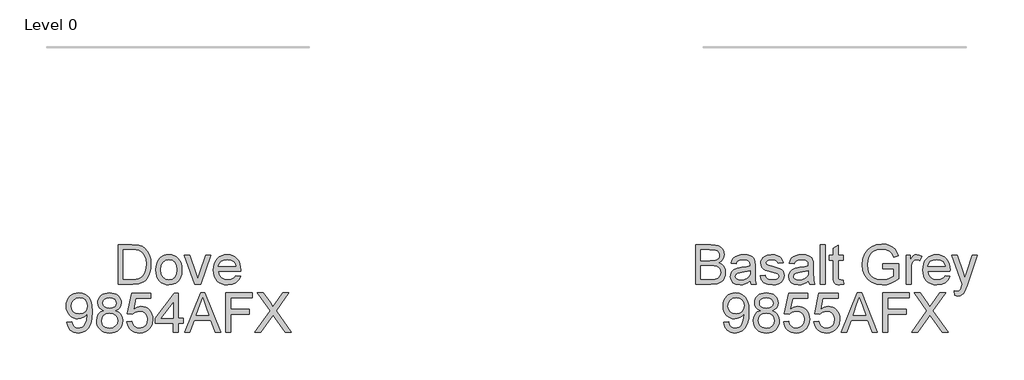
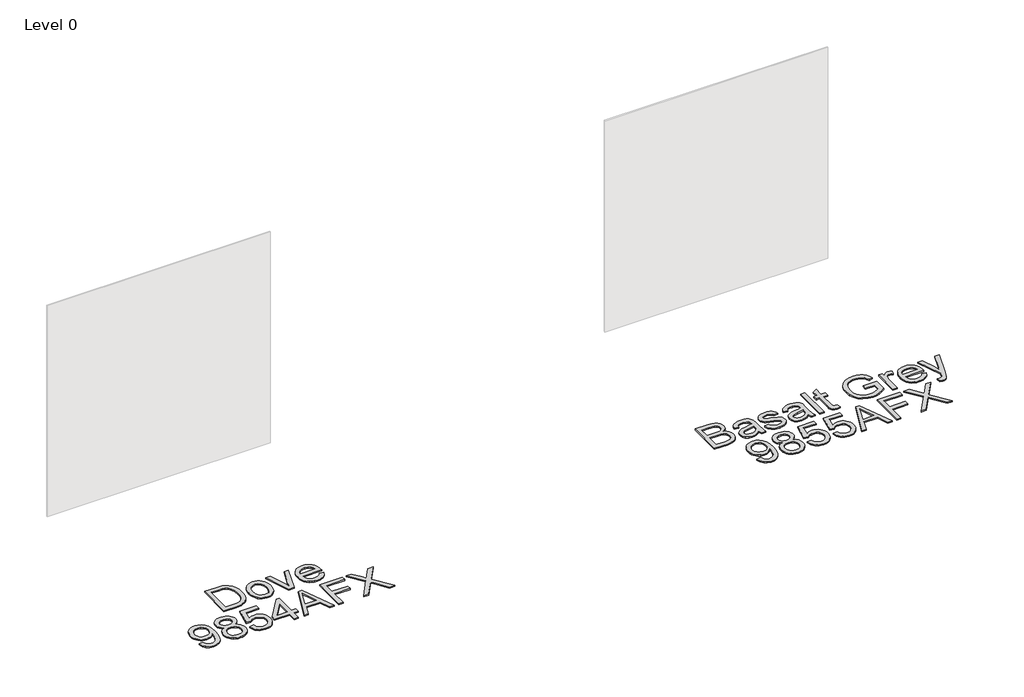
# One storey, part 8 of 10: 2 proxies.
"""IFC4 building model written with IfcOpenShell, lengths in millimetres."""

from ifc_helpers import new_model, si_unit, origin, origin_with_axes, place, context, project, spatial, polyline, outline, extrude, element, save

model = new_model("IFC4")

# Units and contexts
model_context = context("Model", 3, world=origin())
ifc_project = project(units=[si_unit("LENGTHUNIT", "METRE", prefix="MILLI")], contexts=[model_context])

# Site, building, storey
site = spatial("IfcSite", under=ifc_project)
building = spatial("IfcBuilding", under=site)
storey = spatial("IfcBuildingStorey", under=building, Name="Level 0", Elevation=0.0)

# Proxies
placement = place(None, origin())
element("IfcBuildingElementProxy", 1, Name="300mm Arial", ObjectType="300mm Arial", at=placement, inside=storey, context=model_context, shape_type="SweptSolid", body=[
    extrude(outline(polyline([(9492.1962424, -7002.860494), (9492.1962424, -6701.4915635), (9607.196154, -6701.4915635), (9638.8248086, -6703.7080526), (9663.5188875, -6710.3575196), (9682.4464162, -6721.6055116), (9696.7754199, -6737.6175755), (9705.7977258, -6756.4531336), (9708.8051611, -6776.1716086), (9706.2759724, -6794.317388), (9698.6884062, -6811.3779155), (9685.9872804, -6826.3047274), (9668.1174124, -6838.0493601), (9689.4637652, -6849.1961846), (9705.2367058, -6866.1555446), (9714.9763816, -6887.8054), (9718.2229402, -6913.0237108), (9716.0064512, -6934.0389697), (9709.3569841, -6953.5275184), (9699.4333673, -6970.1006023), (9687.394429, -6982.3694669), (9672.651558, -6991.253817), (9654.6161432, -6997.6733578), (9606.3132373, -7002.860494), (9492.1962424, -7002.860494)]), holes=[polyline([(9529.8673587, -6823.9226915), (9598.6612918, -6823.9226915), (9638.8340056, -6820.68533), (9652.8962949, -6815.1027207), (9663.0038527, -6806.7426024), (9669.1014968, -6795.7337336), (9671.1340448, -6782.2048733), (9669.2394525, -6769.071486), (9663.5556757, -6757.630356), (9654.3402317, -6748.7000206), (9641.850638, -6743.0990172), (9593.4373674, -6739.1626798), (9529.8673587, -6739.1626798), (9529.8673587, -6823.9226915)]), polyline([(9529.8673587, -6965.1893777), (9607.1225776, -6965.1893777), (9635.0816093, -6963.7178497), (9658.7364216, -6955.5140812), (9674.4081946, -6938.7754504), (9679.0159166, -6926.9480443), (9680.5518239, -6913.3915928), (9678.7492021, -6897.6462434), (9673.3413368, -6884.1081859), (9663.8959666, -6873.5223815), (9649.9808301, -6866.6337912), (9630.2715522, -6862.8538037), (9603.4437577, -6861.5938078), (9529.8673587, -6861.5938078), (9529.8673587, -6965.1893777)])]), origin_with_axes(), (0.0, 0.0, 1.0), 10.0),
    extrude(outline(polyline([(9906.5785217, -6974.6071568), (9888.5798951, -6990.0398064), (9870.0478396, -7000.1381672), (9850.5592909, -7005.7115794), (9829.6911847, -7007.5693835), (9798.209683, -7003.0996173), (9774.987132, -6989.6903186), (9760.6673254, -6969.3280501), (9755.8940565, -6943.9993748), (9757.6966783, -6928.3827841), (9763.1045436, -6914.2009331), (9771.4462678, -6902.0608273), (9782.0504664, -6892.5694718), (9808.4276054, -6880.2086368), (9841.0219502, -6874.5432541), (9879.5391951, -6868.5835657), (9906.3577925, -6861.5938078), (9906.5785217, -6853.2060983), (9903.9849537, -6836.3938912), (9896.2042495, -6825.3942195), (9878.8034311, -6817.2272392), (9854.5600076, -6814.5049125), (9832.1192059, -6816.3167313), (9816.4474329, -6821.7521878), (9805.7604609, -6831.8045633), (9798.2740623, -6847.4671392), (9760.602946, -6842.7582497), (9767.1420485, -6822.156858), (9776.9001184, -6805.9700502), (9790.7876637, -6793.590821), (9809.7151924, -6784.4121652), (9832.8641669, -6778.7283884), (9859.4160499, -6776.8337961), (9884.8826811, -6778.5076592), (9905.0702055, -6783.5292485), (9920.2913231, -6791.0800264), (9930.8587334, -6800.3414556), (9937.8668854, -6811.7917827), (9942.410228, -6825.9092543), (9944.249638, -6858.8714811), (9944.249638, -6905.7396473), (9946.1626244, -6971.1858542), (9953.6674171, -7002.860494), (9915.9963008, -7002.860494), (9906.5785217, -6974.6071568)]), holes=[polyline([(9906.5785217, -6899.2649241), (9845.8044161, -6910.8164188), (9813.3940123, -6916.9232599), (9798.7155207, -6926.8560738), (9793.5651728, -6941.3506244), (9796.370273, -6952.5526311), (9804.7855737, -6961.7312869), (9818.6271337, -6967.8565221), (9837.7110122, -6969.8982672), (9857.944522, -6967.64499), (9875.8235869, -6960.8851583), (9890.3181375, -6950.9247533), (9900.3981042, -6939.069756), (9904.8678704, -6926.8560738), (9906.3577925, -6909.933502), (9906.5785217, -6899.2649241)])]), origin_with_axes(), (0.0, 0.0, 1.0), 10.0),
    extrude(outline(polyline([(9981.9207543, -6936.9360404), (10019.5918706, -6932.2271509), (10025.5331649, -6948.3403823), (10037.0294772, -6960.1861825), (10054.1543841, -6967.470246), (10076.9814619, -6969.8982672), (10099.5326282, -6967.6725811), (10115.3883422, -6960.9955229), (10124.7693331, -6951.3202265), (10127.89633, -6940.0998256), (10124.750939, -6930.4981055), (10115.3147658, -6923.1772538), (10076.5400035, -6912.4350996), (10019.8125998, -6894.0042116), (10005.456005, -6884.7427824), (9995.0541416, -6872.4831149), (9988.7357683, -6858.0069584), (9986.6296439, -6842.0960621), (9988.321901, -6827.5003439), (9993.3986726, -6814.0266659), (10001.400106, -6802.2084568), (10011.8663487, -6792.5791455), (10035.8154666, -6781.4323211), (10068.2258704, -6776.8337961), (10092.7452054, -6778.6824032), (10114.063967, -6784.2282242), (10131.207268, -6792.9286334), (10143.200221, -6804.2410048), (10151.1464721, -6819.0022698), (10156.1496672, -6838.0493601), (10118.4785509, -6842.7582497), (10113.7236762, -6830.9032524), (10104.3150941, -6821.972917), (10090.1608344, -6816.3719136), (10071.1689264, -6814.5049125), (10049.537465, -6816.2891401), (10035.1164908, -6821.6418232), (10027.0046928, -6829.3673451), (10024.3007602, -6838.2700893), (10028.7889205, -6849.2329728), (10042.8420127, -6857.5471059), (10075.2892047, -6865.5669334), (10130.5818686, -6883.2988455), (10145.1867838, -6891.7785255), (10156.2600318, -6903.3852025), (10163.2405927, -6918.1556646), (10165.5674463, -6936.1267001), (10162.8359225, -6954.7047408), (10154.6413511, -6972.1791356), (10141.2964317, -6987.1795239), (10123.1138641, -6998.3355454), (10101.151309, -7005.260924), (10076.4664271, -7007.5693835), (10038.4826111, -7003.1180114), (10010.7627028, -6989.763895), (9992.2582384, -6967.654187), (9981.9207543, -6936.9360404)])), origin_with_axes(), (0.0, 0.0, 1.0), 10.0),
    extrude(outline(polyline([(10349.2141383, -6974.6071568), (10331.2155117, -6990.0398064), (10312.6834562, -7000.1381672), (10293.1949075, -7005.7115794), (10272.3268013, -7007.5693835), (10240.8452996, -7003.0996173), (10217.6227486, -6989.6903186), (10203.302942, -6969.3280501), (10198.5296731, -6943.9993748), (10200.3322949, -6928.3827841), (10205.7401602, -6914.2009331), (10214.0818844, -6902.0608273), (10224.6860829, -6892.5694718), (10251.063222, -6880.2086368), (10283.6575668, -6874.5432541), (10322.1748117, -6868.5835657), (10348.9934091, -6861.5938078), (10349.2141383, -6853.2060983), (10346.6205703, -6836.3938912), (10338.8398661, -6825.3942195), (10321.4390477, -6817.2272392), (10297.1956242, -6814.5049125), (10274.7548225, -6816.3167313), (10259.0830495, -6821.7521878), (10248.3960775, -6831.8045633), (10240.9096789, -6847.4671392), (10203.2385626, -6842.7582497), (10209.7776651, -6822.156858), (10219.535735, -6805.9700502), (10233.4232803, -6793.590821), (10252.350809, -6784.4121652), (10275.4997835, -6778.7283884), (10302.0516665, -6776.8337961), (10327.5182977, -6778.5076592), (10347.7058221, -6783.5292485), (10362.9269397, -6791.0800264), (10373.49435, -6800.3414556), (10380.502502, -6811.7917827), (10385.0458446, -6825.9092543), (10386.8852546, -6858.8714811), (10386.8852546, -6905.7396473), (10388.798241, -6971.1858542), (10396.3030337, -7002.860494), (10358.6319174, -7002.860494), (10349.2141383, -6974.6071568)]), holes=[polyline([(10349.2141383, -6899.2649241), (10288.4400327, -6910.8164188), (10256.0296289, -6916.9232599), (10241.3511373, -6926.8560738), (10236.2007894, -6941.3506244), (10239.0058896, -6952.5526311), (10247.4211903, -6961.7312869), (10261.2627503, -6967.8565221), (10280.3466288, -6969.8982672), (10300.5801386, -6967.64499), (10318.4592035, -6960.8851583), (10332.9537541, -6950.9247533), (10343.0337208, -6939.069756), (10347.503487, -6926.8560738), (10348.9934091, -6909.933502), (10349.2141383, -6899.2649241)])]), origin_with_axes(), (0.0, 0.0, 1.0), 10.0),
    extrude(outline(polyline([(10438.6830395, -7002.860494), (10438.6830395, -6701.4915635), (10476.3541558, -6701.4915635), (10476.3541558, -7002.860494), (10438.6830395, -7002.860494)])), origin_with_axes(), (0.0, 0.0, 1.0), 10.0),
    extrude(outline(polyline([(10612.9119525, -6971.4433716), (10617.620842, -7003.96414), (10589.4410812, -7007.5693835), (10571.3596811, -7006.005885), (10557.876806, -7001.3153896), (10548.3486623, -6994.0865084), (10542.1314566, -6984.9078526), (10538.710154, -6969.1441091), (10537.5697198, -6942.1599648), (10537.5697198, -6819.213802), (10509.3163826, -6819.213802), (10509.3163826, -6781.5426857), (10537.5697198, -6781.5426857), (10537.5697198, -6727.758338), (10575.2408362, -6705.6118419), (10575.2408362, -6781.5426857), (10612.9119525, -6781.5426857), (10612.9119525, -6819.213802), (10575.2408362, -6819.213802), (10575.2408362, -6941.0563188), (10577.2273989, -6960.4804881), (10583.6653338, -6967.3598814), (10596.5044155, -6969.8982672), (10612.9119525, -6971.4433716)])), origin_with_axes(), (0.0, 0.0, 1.0), 10.0),
    extrude(outline(polyline([(10914.2808829, -6885.1382555), (10914.2808829, -6847.4671392), (11036.7120109, -6847.4671392), (11036.7120109, -6960.1126061), (11006.9595545, -6980.8059684), (10976.2689991, -6995.6500069), (10944.713921, -7004.5895394), (10912.3678965, -7007.5693835), (10870.1074523, -7002.8329028), (10831.9121042, -6988.6234608), (10800.1822821, -6965.437698), (10777.3184161, -6933.7722553), (10763.4952501, -6895.7884393), (10758.8875281, -6853.6475567), (10763.476856, -6811.2031715), (10777.2448397, -6771.7202364), (10799.6212621, -6738.6016598), (10830.035906, -6715.2503502), (10867.0816229, -6701.399593), (10909.3512642, -6696.782674), (10940.3821105, -6699.4590155), (10968.2859598, -6707.4880401), (10991.7844222, -6720.2903335), (11009.5991079, -6737.2864817), (11022.7784803, -6759.295022), (11032.3710034, -6787.134492), (10997.642943, -6796.9201531), (10989.88983, -6777.0637224), (10980.4628538, -6762.0817281), (10967.9916542, -6750.7877509), (10951.1058706, -6741.9953712), (10930.9735284, -6736.3391855), (10908.762653, -6734.4537903), (10882.762593, -6736.4863383), (10860.5333234, -6742.5839824), (10842.1576178, -6751.9833674), (10827.7182494, -6763.9211381), (10808.3308683, -6792.9470275), (10799.5017004, -6821.3843058), (10796.5586445, -6852.1024524), (10800.0995087, -6888.1272967), (10810.7221013, -6917.7693885), (10828.1045255, -6940.8171955), (10851.9248847, -6957.0591856), (10879.8011429, -6966.6884968), (10909.3512642, -6969.8982672), (10935.4432947, -6967.4794431), (10960.8915317, -6960.2229707), (10982.9920426, -6950.2257775), (10999.0408946, -6939.5847908), (10999.0408946, -6885.1382555), (10914.2808829, -6885.1382555)])), origin_with_axes(), (0.0, 0.0, 1.0), 10.0),
    extrude(outline(polyline([(11093.2186854, -7002.860494), (11093.2186854, -6781.5426857), (11126.1809121, -6781.5426857), (11126.1809121, -6814.2841833), (11138.3578062, -6795.3014723), (11149.578207, -6784.1178596), (11160.8353961, -6778.654812), (11173.1226547, -6776.8337961), (11191.8846365, -6779.7400639), (11210.9409238, -6788.4588672), (11198.3593596, -6822.2304343), (11185.1156078, -6816.4362929), (11171.8718559, -6814.5049125), (11160.6238639, -6816.3627165), (11150.5714884, -6821.9361288), (11142.4504934, -6830.8020848), (11136.9966428, -6842.5375205), (11132.4165119, -6863.5803706), (11130.8898017, -6886.5362071), (11130.8898017, -7002.860494), (11093.2186854, -7002.860494)])), origin_with_axes(), (0.0, 0.0, 1.0), 10.0),
    extrude(outline(polyline([(11389.4372679, -6936.9360404), (11426.3726202, -6941.64493), (11413.064489, -6969.4752029), (11391.8285008, -6990.2789297), (11363.1429023, -7003.2467701), (11327.4859399, -7007.5693835), (11304.1116376, -7005.7046817), (11283.2849182, -7000.1105761), (11265.0057815, -6990.7870668), (11249.2742277, -6977.7341537), (11236.6236856, -6961.3151204), (11227.5875841, -6941.8932503), (11222.1659232, -6919.4685435), (11220.3587029, -6894.0409998), (11222.1843173, -6867.7512327), (11227.6611605, -6844.5792656), (11236.7892325, -6824.5250983), (11249.5685333, -6807.5887309), (11265.2587004, -6794.133447), (11283.1193713, -6784.5225298), (11303.1505459, -6778.7559796), (11325.3522243, -6776.8337961), (11346.8388321, -6778.751381), (11366.2698992, -6784.5041357), (11383.6454257, -6794.0920602), (11398.9654116, -6807.5151545), (11411.4711001, -6824.4147337), (11420.4037348, -6844.4321128), (11425.7633156, -6867.5672917), (11427.5498426, -6893.8202706), (11427.3291134, -6903.9738137), (11258.0298192, -6903.9738137), (11264.5505276, -6932.1719686), (11279.6980687, -6952.902119), (11301.5594563, -6965.6492302), (11328.2217039, -6969.8982672), (11348.2712726, -6967.9300985), (11365.1570562, -6962.0255925), (11378.8790546, -6951.8168672), (11389.4372679, -6936.9360404)]), holes=[polyline([(11258.0298192, -6866.3026974), (11389.8787263, -6866.3026974), (11384.7835606, -6846.4002814), (11374.7955645, -6832.1632482), (11352.8330094, -6818.9194964), (11325.2050715, -6814.5049125), (11299.8120168, -6818.0273826), (11278.8151519, -6828.5947929), (11264.2194338, -6845.0667092), (11258.0298192, -6866.3026974)])]), origin_with_axes(), (0.0, 0.0, 1.0), 10.0),
    extrude(outline(polyline([(11465.2209589, -7087.6205057), (11460.5120693, -7051.3473409), (11479.6419331, -7054.6582789), (11497.5209981, -7050.5012124), (11508.4838815, -7038.9129295), (11518.7845774, -7011.1746271), (11521.7276333, -7002.0511536), (11441.6765112, -6781.5426857), (11481.4077667, -6781.5426857), (11523.8613489, -6904.4152721), (11538.6502051, -6953.5643066), (11553.4390613, -6910.1542312), (11597.069866, -6781.5426857), (11636.5068158, -6781.5426857), (11559.472326, -7008.1579947), (11539.4595455, -7057.3070293), (11529.2140319, -7072.9971964), (11517.607355, -7083.8681093), (11504.1244799, -7090.2140737), (11488.2503718, -7092.3293952), (11465.2209589, -7087.6205057)])), origin_with_axes(), (0.0, 0.0, 1.0), 10.0),
    extrude(outline(polyline([(9704.0962716, -7293.4427149), (9741.7673879, -7288.7338254), (9748.2053228, -7310.1169663), (9758.6899597, -7324.6758963), (9772.9637811, -7333.0360146), (9790.7692696, -7335.8227207), (9806.7445453, -7334.029296), (9821.266687, -7328.6490218), (9833.3332165, -7320.2705094), (9841.9416552, -7309.4823699), (9854.265702, -7276.7408723), (9859.7103555, -7233.0364913), (9859.4896263, -7225.6788514), (9846.4390126, -7241.6081418), (9829.3600909, -7254.2264942), (9809.4852661, -7262.4486568), (9788.0469429, -7265.1893777), (9770.1517831, -7263.5155146), (9753.6959616, -7258.4939254), (9738.6794784, -7250.12461), (9725.1023335, -7238.4075684), (9713.8520422, -7223.9544045), (9705.8161199, -7207.3767221), (9700.9945665, -7188.6745212), (9699.387382, -7167.8478018), (9701.0727414, -7146.326705), (9706.1288196, -7127.0129003), (9714.5556165, -7109.9063875), (9726.3531323, -7095.0071667), (9740.6890338, -7082.9360387), (9756.730988, -7074.3138045), (9774.478995, -7069.1404639), (9793.9330548, -7067.4160171), (9822.0300422, -7071.3523544), (9847.6070379, -7083.1613665), (9868.9993759, -7102.254442), (9884.5423902, -7128.0429699), (9894.0061545, -7163.6907352), (9897.1607426, -7212.3615232), (9894.0153516, -7263.96617), (9884.5791784, -7303.8537754), (9868.9349966, -7333.8269609), (9847.1655795, -7355.6883485), (9820.2090263, -7369.0424649), (9789.0034361, -7373.4938371), (9756.7953674, -7368.2423216), (9731.09881, -7352.4877751), (9713.1277746, -7327.2234791), (9704.0962716, -7293.4427149)]), holes=[polyline([(9859.4896263, -7166.964885), (9855.4245303, -7141.4338745), (9843.2292422, -7121.788976), (9824.3017135, -7109.262594), (9800.0398959, -7105.0871334), (9774.8767674, -7109.5844908), (9754.7168341, -7123.0765629), (9741.4730823, -7143.7239399), (9737.0584983, -7169.6872117), (9741.233959, -7192.964945), (9753.7603409, -7211.4418182), (9773.4236336, -7223.4991506), (9799.0098263, -7227.5182614), (9823.0785059, -7223.4991506), (9842.45669, -7211.4418182), (9855.2313922, -7192.2843633), (9859.4896263, -7166.964885)])]), origin_with_axes(), (0.0, 0.0, 1.0), 10.0),
    extrude(outline(polyline([(9985.0109631, -7202.7965913), (9964.8418327, -7192.8637774), (9950.6875729, -7179.3992964), (9942.3274546, -7162.6790597), (9939.5407485, -7142.9789789), (9941.0582617, -7127.6153071), (9945.6108014, -7113.5300252), (9953.1983676, -7100.7231332), (9963.8209602, -7089.1946312), (9976.968143, -7079.6664875), (9992.1294797, -7072.8606706), (10028.4946149, -7067.4160171), (10065.0804793, -7072.9894293), (10080.407363, -7079.9561946), (10093.7568809, -7089.709666), (10104.5726115, -7101.4634957), (10112.2981334, -7114.4313361), (10116.9334466, -7128.613187), (10118.4785509, -7144.0090485), (10115.728633, -7163.0745329), (10107.4788793, -7179.509661), (10093.6373192, -7192.8913686), (10074.1119823, -7202.7965913), (10097.2977451, -7214.7435591), (10114.1743316, -7232.3375155), (10124.4658304, -7254.732332), (10127.89633, -7281.0818799), (10126.1948758, -7299.8714528), (10121.0905131, -7317.0975272), (10112.583242, -7332.7601031), (10100.6730624, -7346.8591806), (10085.9853737, -7358.5118428), (10069.1455754, -7366.8351729), (10050.1536674, -7371.829171), (10029.0096497, -7373.4938371), (10007.865632, -7371.8222732), (9988.873724, -7366.8075818), (9972.0339257, -7358.4497627), (9957.3462371, -7346.748816), (9945.4360575, -7332.5508703), (9936.9287863, -7316.7020541), (9931.8244236, -7299.2023674), (9930.1229694, -7280.0518103), (9933.6914248, -7252.6813898), (9944.3967908, -7230.1670117), (9961.6872446, -7213.2812282), (9985.0109631, -7202.7965913)]), holes=[polyline([(9977.2118648, -7144.0826249), (9980.5503939, -7160.52695), (9990.5659812, -7173.6603373), (10006.9643212, -7182.268776), (10029.4511081, -7185.1382555), (10051.4136632, -7182.2871701), (10067.5636828, -7173.7339137), (10077.4964967, -7161.0419848), (10080.8074346, -7145.774882), (10077.3861321, -7129.9283651), (10067.1222244, -7116.822569), (10050.7514756, -7108.0209923), (10029.0096497, -7105.0871334), (10007.1298681, -7107.9566129), (9990.7867104, -7116.5650516), (9980.6055762, -7129.1834041), (9977.2118648, -7144.0826249)]), polyline([(9967.7940857, -7278.7274351), (9974.0848678, -7307.0911369), (9982.7944741, -7319.2588339), (9996.3417285, -7328.317928), (10012.5653245, -7333.9465226), (10029.3039553, -7335.8227207), (10054.9453304, -7331.8771864), (10074.1855587, -7320.0405832), (10086.2153, -7302.1155329), (10090.2252137, -7279.9046575), (10086.0865413, -7257.316703), (10073.6705239, -7238.9961796), (10053.9888372, -7226.8560738), (10028.0531565, -7222.8093718), (10002.7704664, -7226.8008915), (9983.7233761, -7238.7754504), (9971.7764083, -7256.7464859), (9967.7940857, -7278.7274351)])]), origin_with_axes(), (0.0, 0.0, 1.0), 10.0),
    extrude(outline(polyline([(10160.8585568, -7288.7338254), (10198.5296731, -7284.0249358), (10205.4458546, -7306.6404815), (10217.512384, -7322.8364863), (10234.6740791, -7332.5761621), (10256.8757575, -7335.8227207), (10283.878296, -7331.3069693), (10304.1118057, -7317.7597148), (10316.7485522, -7296.7444558), (10320.9608011, -7269.8246908), (10317.0152667, -7244.4776213), (10305.1786635, -7225.0902402), (10285.359021, -7212.7845875), (10257.4643687, -7208.6827032), (10239.1898306, -7210.3197781), (10224.3917774, -7215.2310027), (10203.2385626, -7232.2271509), (10165.5674463, -7227.5182614), (10198.5296731, -7072.1249066), (10344.5052488, -7072.1249066), (10344.5052488, -7109.7960229), (10228.9903023, -7109.7960229), (10212.8770709, -7192.790201), (10239.7876389, -7176.4562404), (10267.9857938, -7171.0115869), (10286.331609, -7172.6992456), (10303.1829037, -7177.7622215), (10318.5396777, -7186.2005148), (10332.4019311, -7198.0141254), (10343.8775501, -7212.4810848), (10352.0744208, -7228.8794248), (10356.9925433, -7247.2091452), (10358.6319174, -7267.470246), (10352.7274114, -7305.1413624), (10345.3467788, -7321.9351754), (10335.0138933, -7337.3678251), (10319.3605144, -7353.1729553), (10301.0951733, -7364.4623341), (10280.2178701, -7371.2359613), (10256.7286047, -7373.4938371), (10219.7288731, -7367.6904986), (10204.0502023, -7360.4363255), (10190.2523282, -7350.2804832), (10178.7721107, -7337.7288093), (10170.0464096, -7323.2871418), (10160.8585568, -7288.7338254)])), origin_with_axes(), (0.0, 0.0, 1.0), 10.0),
    extrude(outline(polyline([(10391.5941442, -7288.7338254), (10429.2652605, -7284.0249358), (10436.181442, -7306.6404815), (10448.2479714, -7322.8364863), (10465.4096665, -7332.5761621), (10487.6113449, -7335.8227207), (10514.6138833, -7331.3069693), (10534.8473931, -7317.7597148), (10547.4841396, -7296.7444558), (10551.6963885, -7269.8246908), (10547.7508541, -7244.4776213), (10535.9142509, -7225.0902402), (10516.0946084, -7212.7845875), (10488.1999561, -7208.6827032), (10469.925418, -7210.3197781), (10455.1273647, -7215.2310027), (10433.97415, -7232.2271509), (10396.3030337, -7227.5182614), (10429.2652605, -7072.1249066), (10575.2408362, -7072.1249066), (10575.2408362, -7109.7960229), (10459.7258897, -7109.7960229), (10443.6126583, -7192.790201), (10470.5232262, -7176.4562404), (10498.7213812, -7171.0115869), (10517.0671964, -7172.6992456), (10533.918491, -7177.7622215), (10549.2752651, -7186.2005148), (10563.1375185, -7198.0141254), (10574.6131375, -7212.4810848), (10582.8100082, -7228.8794248), (10587.7281306, -7247.2091452), (10589.3675048, -7267.470246), (10583.4629987, -7305.1413624), (10576.0823662, -7321.9351754), (10565.7494807, -7337.3678251), (10550.0961018, -7353.1729553), (10531.8307607, -7364.4623341), (10510.9534575, -7371.2359613), (10487.4641921, -7373.4938371), (10450.4644604, -7367.6904986), (10434.7857897, -7360.4363255), (10420.9879156, -7350.2804832), (10409.5076981, -7337.7288093), (10400.781997, -7323.2871418), (10391.5941442, -7288.7338254)])), origin_with_axes(), (0.0, 0.0, 1.0), 10.0),
    extrude(outline(polyline([(10601.3604578, -7368.7849475), (10721.6578702, -7067.4160171), (10753.7371802, -7067.4160171), (10874.0345926, -7368.7849475), (10834.2297608, -7368.7849475), (10799.7224296, -7274.6071568), (10675.5990444, -7274.6071568), (10641.1652897, -7368.7849475), (10601.3604578, -7368.7849475)]), holes=[polyline([(10689.4314075, -7236.9360404), (10785.963643, -7236.9360404), (10758.8139517, -7162.8446066), (10737.6975252, -7105.0871334), (10718.9355435, -7156.3698835), (10689.4314075, -7236.9360404)])]), origin_with_axes(), (0.0, 0.0, 1.0), 10.0),
    extrude(outline(polyline([(10914.2808829, -7368.7849475), (10914.2808829, -7067.4160171), (11116.7631331, -7067.4160171), (11116.7631331, -7105.0871334), (10951.9519992, -7105.0871334), (10951.9519992, -7194.5560346), (11093.2186854, -7194.5560346), (11093.2186854, -7232.2271509), (10951.9519992, -7232.2271509), (10951.9519992, -7368.7849475), (10914.2808829, -7368.7849475)])), origin_with_axes(), (0.0, 0.0, 1.0), 10.0),
    extrude(outline(polyline([(11135.5986912, -7368.7849475), (11251.7758253, -7204.5624249), (11154.4342494, -7067.4160171), (11199.6101584, -7067.4160171), (11254.4245756, -7144.5976597), (11272.8922518, -7174.6904069), (11294.5237131, -7144.0826249), (11348.7495192, -7067.4160171), (11394.5876158, -7067.4160171), (11297.2460399, -7205.0038833), (11413.423174, -7368.7849475), (11368.247265, -7368.7849475), (11290.8448932, -7259.5975713), (11274.7316618, -7236.9360404), (11256.9997496, -7261.8048633), (11181.4367878, -7368.7849475), (11135.5986912, -7368.7849475)])), origin_with_axes(), (0.0, 0.0, 1.0), 10.0),
])
element("IfcBuildingElementProxy", 2, Name="300mm Arial", ObjectType="300mm Arial", at=placement, inside=storey, context=model_context, shape_type="SweptSolid", body=[
    extrude(outline(polyline([(5094.9341033, -7002.860494), (5094.9341033, -6701.4915635), (5198.8975551, -6701.4915635), (5252.6819028, -6705.8325711), (5276.7045971, -6714.2018865), (5296.974895, -6727.390456), (5317.81541, -6750.3462925), (5332.6594485, -6778.8939353), (5341.5437987, -6812.4815615), (5344.5052488, -6850.557348), (5342.5002919, -6882.9033724), (5336.4854213, -6911.3682418), (5327.3251596, -6935.6024682), (5315.8840296, -6955.2565638), (5302.7138541, -6970.771987), (5288.3664563, -6982.590196), (5271.89454, -6991.3549846), (5252.350809, -6997.710146), (5203.9007502, -7002.860494), (5094.9341033, -7002.860494)]), holes=[polyline([(5132.6052196, -6965.1893777), (5199.2654371, -6965.1893777), (5226.8381926, -6963.8282143), (5247.752284, -6959.7447241), (5263.5344216, -6953.1780305), (5275.7113157, -6944.3672567), (5288.7987177, -6928.0608873), (5298.630364, -6906.9536578), (5304.7831903, -6880.9535978), (5306.8341325, -6849.9687368), (5302.8150217, -6808.9131061), (5290.7576893, -6778.5996297), (5272.9430037, -6757.7775088), (5251.6518332, -6745.1959446), (5229.9835837, -6740.670996), (5198.2353675, -6739.1626798), (5132.6052196, -6739.1626798), (5132.6052196, -6965.1893777)])]), origin_with_axes(), (0.0, 0.0, 1.0), 10.0),
    extrude(outline(polyline([(5382.1763651, -6892.2015898), (5384.2135116, -6863.5389839), (5390.3249513, -6838.8403064), (5400.510684, -6818.1055575), (5414.7707099, -6801.334737), (5429.1273047, -6790.6155754), (5444.9738217, -6782.9590314), (5462.3102607, -6778.3651049), (5481.1366218, -6776.8337961), (5501.9196553, -6778.698498), (5520.7115274, -6784.2926036), (5537.5122383, -6793.6161129), (5552.3217879, -6806.669026), (5564.4090107, -6823.0098843), (5573.0427412, -6842.1972296), (5578.2229796, -6864.2310619), (5579.9497257, -6889.1113811), (5576.8963051, -6927.1687735), (5567.7360435, -6956.1394806), (5552.7356551, -6977.8353213), (5532.1618545, -6994.0681143), (5507.725293, -7004.1940662), (5481.1366218, -7007.5693835), (5460.0500857, -7005.7115794), (5441.0834696, -7000.1381672), (5424.2367734, -6990.8491468), (5409.5099973, -6977.8445183), (5397.5515332, -6961.3450108), (5389.0097731, -6941.5713536), (5383.8847171, -6918.5235466), (5382.1763651, -6892.2015898)]), holes=[polyline([(5419.8474814, -6892.1280134), (5424.206883, -6926.2214773), (5437.285088, -6950.5108861), (5456.9667747, -6965.0514219), (5481.1366218, -6969.8982672), (5505.1961043, -6965.0238308), (5524.8410028, -6950.4005215), (5537.9192077, -6925.789216), (5542.2786094, -6890.950791), (5537.8916166, -6857.8506085), (5524.7306382, -6833.8922936), (5505.0581485, -6819.3517577), (5481.1366218, -6814.5049125), (5456.9667747, -6819.3333636), (5437.285088, -6833.8187172), (5424.206883, -6858.0529436), (5419.8474814, -6892.1280134)])]), origin_with_axes(), (0.0, 0.0, 1.0), 10.0),
    extrude(outline(polyline([(5676.629114, -7002.860494), (5598.7852838, -6781.5426857), (5638.6636921, -6781.5426857), (5685.8261639, -6914.1273567), (5700.0264089, -6958.7146546), (5713.9323483, -6916.6289543), (5761.3891257, -6781.5426857), (5801.267534, -6781.5426857), (5724.380197, -7002.860494), (5676.629114, -7002.860494)])), origin_with_axes(), (0.0, 0.0, 1.0), 10.0),
    extrude(outline(polyline([(5989.1816571, -6936.9360404), (6026.1170094, -6941.64493), (6012.8088783, -6969.4752029), (5991.5728901, -6990.2789297), (5962.8872915, -7003.2467701), (5927.2303291, -7007.5693835), (5903.8560269, -7005.7046817), (5883.0293074, -7000.1105761), (5864.7501708, -6990.7870668), (5849.018617, -6977.7341537), (5836.3680749, -6961.3151204), (5827.3319733, -6941.8932503), (5821.9103124, -6919.4685435), (5820.1030921, -6894.0409998), (5821.9287065, -6867.7512327), (5827.4055497, -6844.5792656), (5836.5336218, -6824.5250983), (5849.3129226, -6807.5887309), (5865.0030897, -6794.133447), (5882.8637605, -6784.5225298), (5902.8949352, -6778.7559796), (5925.0966136, -6776.8337961), (5946.5832213, -6778.751381), (5966.0142885, -6784.5041357), (5983.389815, -6794.0920602), (5998.7098008, -6807.5151545), (6011.2154894, -6824.4147337), (6020.1481241, -6844.4321128), (6025.5077049, -6867.5672917), (6027.2942318, -6893.8202706), (6027.0735026, -6903.9738137), (5857.7742084, -6903.9738137), (5864.2949168, -6932.1719686), (5879.442458, -6952.902119), (5901.3038455, -6965.6492302), (5927.9660931, -6969.8982672), (5948.0156619, -6967.9300985), (5964.9014454, -6962.0255925), (5978.6234439, -6951.8168672), (5989.1816571, -6936.9360404)]), holes=[polyline([(5857.7742084, -6866.3026974), (5989.6231155, -6866.3026974), (5984.5279499, -6846.4002814), (5974.5399537, -6832.1632482), (5952.5773986, -6818.9194964), (5924.9494608, -6814.5049125), (5899.5564061, -6818.0273826), (5878.5595412, -6828.5947929), (5863.963823, -6845.0667092), (5857.7742084, -6866.3026974)])]), origin_with_axes(), (0.0, 0.0, 1.0), 10.0),
    extrude(outline(polyline([(4704.0962716, -7293.4427149), (4741.7673879, -7288.7338254), (4748.2053228, -7310.1169663), (4758.6899597, -7324.6758963), (4772.9637811, -7333.0360146), (4790.7692696, -7335.8227207), (4806.7445453, -7334.029296), (4821.266687, -7328.6490218), (4833.3332165, -7320.2705094), (4841.9416552, -7309.4823699), (4854.265702, -7276.7408723), (4859.7103555, -7233.0364913), (4859.4896263, -7225.6788514), (4846.4390126, -7241.6081418), (4829.3600909, -7254.2264942), (4809.4852661, -7262.4486568), (4788.0469429, -7265.1893777), (4770.1517831, -7263.5155146), (4753.6959616, -7258.4939254), (4738.6794784, -7250.12461), (4725.1023335, -7238.4075684), (4713.8520422, -7223.9544045), (4705.8161199, -7207.3767221), (4700.9945665, -7188.6745212), (4699.387382, -7167.8478018), (4701.0727414, -7146.326705), (4706.1288196, -7127.0129003), (4714.5556165, -7109.9063875), (4726.3531323, -7095.0071667), (4740.6890338, -7082.9360387), (4756.730988, -7074.3138045), (4774.478995, -7069.1404639), (4793.9330548, -7067.4160171), (4822.0300422, -7071.3523544), (4847.6070379, -7083.1613665), (4868.9993759, -7102.254442), (4884.5423902, -7128.0429699), (4894.0061545, -7163.6907352), (4897.1607426, -7212.3615232), (4894.0153516, -7263.96617), (4884.5791784, -7303.8537754), (4868.9349966, -7333.8269609), (4847.1655795, -7355.6883485), (4820.2090263, -7369.0424649), (4789.0034361, -7373.4938371), (4756.7953674, -7368.2423216), (4731.09881, -7352.4877751), (4713.1277746, -7327.2234791), (4704.0962716, -7293.4427149)]), holes=[polyline([(4859.4896263, -7166.964885), (4855.4245303, -7141.4338745), (4843.2292422, -7121.788976), (4824.3017135, -7109.262594), (4800.0398959, -7105.0871334), (4774.8767674, -7109.5844908), (4754.7168341, -7123.0765629), (4741.4730823, -7143.7239399), (4737.0584983, -7169.6872117), (4741.233959, -7192.964945), (4753.7603409, -7211.4418182), (4773.4236336, -7223.4991506), (4799.0098263, -7227.5182614), (4823.0785059, -7223.4991506), (4842.45669, -7211.4418182), (4855.2313922, -7192.2843633), (4859.4896263, -7166.964885)])]), origin_with_axes(), (0.0, 0.0, 1.0), 10.0),
    extrude(outline(polyline([(4985.0109631, -7202.7965913), (4964.8418327, -7192.8637774), (4950.6875729, -7179.3992964), (4942.3274546, -7162.6790597), (4939.5407485, -7142.9789789), (4941.0582617, -7127.6153071), (4945.6108014, -7113.5300252), (4953.1983676, -7100.7231332), (4963.8209602, -7089.1946312), (4976.968143, -7079.6664875), (4992.1294797, -7072.8606706), (5028.4946149, -7067.4160171), (5065.0804793, -7072.9894293), (5080.407363, -7079.9561946), (5093.7568809, -7089.709666), (5104.5726115, -7101.4634957), (5112.2981334, -7114.4313361), (5116.9334466, -7128.613187), (5118.4785509, -7144.0090485), (5115.728633, -7163.0745329), (5107.4788793, -7179.509661), (5093.6373192, -7192.8913686), (5074.1119823, -7202.7965913), (5097.2977451, -7214.7435591), (5114.1743316, -7232.3375155), (5124.4658304, -7254.732332), (5127.89633, -7281.0818799), (5126.1948758, -7299.8714528), (5121.0905131, -7317.0975272), (5112.583242, -7332.7601031), (5100.6730624, -7346.8591806), (5085.9853737, -7358.5118428), (5069.1455754, -7366.8351729), (5050.1536674, -7371.829171), (5029.0096497, -7373.4938371), (5007.865632, -7371.8222732), (4988.873724, -7366.8075818), (4972.0339257, -7358.4497627), (4957.3462371, -7346.748816), (4945.4360575, -7332.5508703), (4936.9287863, -7316.7020541), (4931.8244236, -7299.2023674), (4930.1229694, -7280.0518103), (4933.6914248, -7252.6813898), (4944.3967908, -7230.1670117), (4961.6872446, -7213.2812282), (4985.0109631, -7202.7965913)]), holes=[polyline([(4977.2118648, -7144.0826249), (4980.5503939, -7160.52695), (4990.5659812, -7173.6603373), (5006.9643212, -7182.268776), (5029.4511081, -7185.1382555), (5051.4136632, -7182.2871701), (5067.5636828, -7173.7339137), (5077.4964967, -7161.0419848), (5080.8074346, -7145.774882), (5077.3861321, -7129.9283651), (5067.1222244, -7116.822569), (5050.7514756, -7108.0209923), (5029.0096497, -7105.0871334), (5007.1298681, -7107.9566129), (4990.7867104, -7116.5650516), (4980.6055762, -7129.1834041), (4977.2118648, -7144.0826249)]), polyline([(4967.7940857, -7278.7274351), (4974.0848678, -7307.0911369), (4982.7944741, -7319.2588339), (4996.3417285, -7328.317928), (5012.5653245, -7333.9465226), (5029.3039553, -7335.8227207), (5054.9453304, -7331.8771864), (5074.1855587, -7320.0405832), (5086.2153, -7302.1155329), (5090.2252137, -7279.9046575), (5086.0865413, -7257.316703), (5073.6705239, -7238.9961796), (5053.9888372, -7226.8560738), (5028.0531565, -7222.8093718), (5002.7704664, -7226.8008915), (4983.7233761, -7238.7754504), (4971.7764083, -7256.7464859), (4967.7940857, -7278.7274351)])]), origin_with_axes(), (0.0, 0.0, 1.0), 10.0),
    extrude(outline(polyline([(5160.8585568, -7288.7338254), (5198.5296731, -7284.0249358), (5205.4458546, -7306.6404815), (5217.512384, -7322.8364863), (5234.6740791, -7332.5761621), (5256.8757575, -7335.8227207), (5283.878296, -7331.3069693), (5304.1118057, -7317.7597148), (5316.7485522, -7296.7444558), (5320.9608011, -7269.8246908), (5317.0152667, -7244.4776213), (5305.1786635, -7225.0902402), (5285.359021, -7212.7845875), (5257.4643687, -7208.6827032), (5239.1898306, -7210.3197781), (5224.3917774, -7215.2310027), (5203.2385626, -7232.2271509), (5165.5674463, -7227.5182614), (5198.5296731, -7072.1249066), (5344.5052488, -7072.1249066), (5344.5052488, -7109.7960229), (5228.9903023, -7109.7960229), (5212.8770709, -7192.790201), (5239.7876389, -7176.4562404), (5267.9857938, -7171.0115869), (5286.331609, -7172.6992456), (5303.1829037, -7177.7622215), (5318.5396777, -7186.2005148), (5332.4019311, -7198.0141254), (5343.8775501, -7212.4810848), (5352.0744208, -7228.8794248), (5356.9925433, -7247.2091452), (5358.6319174, -7267.470246), (5352.7274114, -7305.1413624), (5345.3467788, -7321.9351754), (5335.0138933, -7337.3678251), (5319.3605144, -7353.1729553), (5301.0951733, -7364.4623341), (5280.2178701, -7371.2359613), (5256.7286047, -7373.4938371), (5219.7288731, -7367.6904986), (5204.0502023, -7360.4363255), (5190.2523282, -7350.2804832), (5178.7721107, -7337.7288093), (5170.0464096, -7323.2871418), (5160.8585568, -7288.7338254)])), origin_with_axes(), (0.0, 0.0, 1.0), 10.0),
    extrude(outline(polyline([(5514.0252722, -7368.7849475), (5514.0252722, -7298.1516044), (5377.4674755, -7298.1516044), (5377.4674755, -7260.4804881), (5523.4430512, -7072.1249066), (5551.6963885, -7072.1249066), (5551.6963885, -7260.4804881), (5589.3675048, -7260.4804881), (5589.3675048, -7298.1516044), (5551.6963885, -7298.1516044), (5551.6963885, -7368.7849475), (5514.0252722, -7368.7849475)]), holes=[polyline([(5514.0252722, -7260.4804881), (5514.0252722, -7144.0826249), (5423.8206069, -7260.4804881), (5514.0252722, -7260.4804881)])]), origin_with_axes(), (0.0, 0.0, 1.0), 10.0),
    extrude(outline(polyline([(5601.3604578, -7368.7849475), (5721.6578702, -7067.4160171), (5753.7371802, -7067.4160171), (5874.0345926, -7368.7849475), (5834.2297608, -7368.7849475), (5799.7224296, -7274.6071568), (5675.5990444, -7274.6071568), (5641.1652897, -7368.7849475), (5601.3604578, -7368.7849475)]), holes=[polyline([(5689.4314075, -7236.9360404), (5785.963643, -7236.9360404), (5758.8139517, -7162.8446066), (5737.6975252, -7105.0871334), (5718.9355435, -7156.3698835), (5689.4314075, -7236.9360404)])]), origin_with_axes(), (0.0, 0.0, 1.0), 10.0),
    extrude(outline(polyline([(5914.2808829, -7368.7849475), (5914.2808829, -7067.4160171), (6116.7631331, -7067.4160171), (6116.7631331, -7105.0871334), (5951.9519992, -7105.0871334), (5951.9519992, -7194.5560346), (6093.2186854, -7194.5560346), (6093.2186854, -7232.2271509), (5951.9519992, -7232.2271509), (5951.9519992, -7368.7849475), (5914.2808829, -7368.7849475)])), origin_with_axes(), (0.0, 0.0, 1.0), 10.0),
    extrude(outline(polyline([(6135.5986912, -7368.7849475), (6251.7758253, -7204.5624249), (6154.4342494, -7067.4160171), (6199.6101584, -7067.4160171), (6254.4245756, -7144.5976597), (6272.8922518, -7174.6904069), (6294.5237131, -7144.0826249), (6348.7495192, -7067.4160171), (6394.5876158, -7067.4160171), (6297.2460399, -7205.0038833), (6413.423174, -7368.7849475), (6368.247265, -7368.7849475), (6290.8448932, -7259.5975713), (6274.7316618, -7236.9360404), (6256.9997496, -7261.8048633), (6181.4367878, -7368.7849475), (6135.5986912, -7368.7849475)])), origin_with_axes(), (0.0, 0.0, 1.0), 10.0),
])

save(model, "model.ifc")
